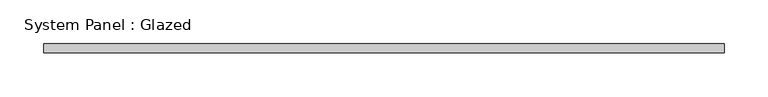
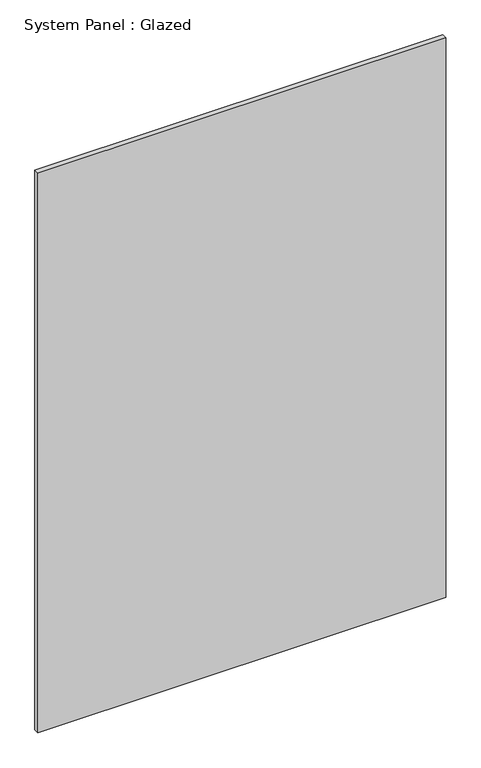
"""IFC4 building model written with IfcOpenShell, lengths in millimetres: plate geometry, System Panel : Glazed."""

from ifc_helpers import new_model, si_unit, origin, origin_with_axes, place, context, project, spatial, polyline, outline, extrude, source, transform, mapped, element, save


def system_panel_glazed_d3e62436(model_context):
    return source(origin(), model_context, "Body", "SweptSolid", [
        extrude(outline(polyline([(387.5, -5.0), (-387.5, -5.0), (-387.5, 5.0), (387.5, 5.0), (387.5, -5.0)])), origin_with_axes(), (0.0, 0.0, 1.0), 1124.6707214),
    ])


if __name__ == "__main__":
    model = new_model("IFC4")
    model_context = context("Model", 3, world=origin())
    ifc_project = project(units=[si_unit("LENGTHUNIT", "METRE", prefix="MILLI")], contexts=[model_context])
    site = spatial("IfcSite", under=ifc_project)
    building = spatial("IfcBuilding", under=site)
    placement = place(None, origin())
    system_panel_glazed_shape = system_panel_glazed_d3e62436(model_context)
    element("IfcPlate", 1, ObjectType="System Panel : Glazed", at=placement, inside=building, context=model_context, shape_type="MappedRepresentation", body=[
        mapped(system_panel_glazed_shape, transform((0.0, 0.0, 0.0), x_axis=(1.0, 0.0, 0.0), y_axis=(0.0, 1.0, 0.0), z_axis=(0.0, 0.0, 1.0))),
    ])
    save(model, "model.ifc")
